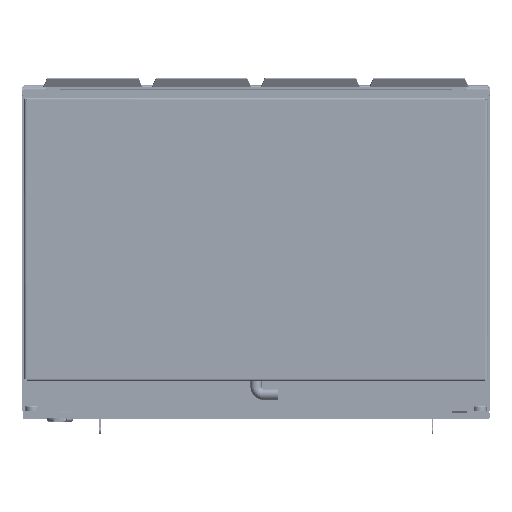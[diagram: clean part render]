
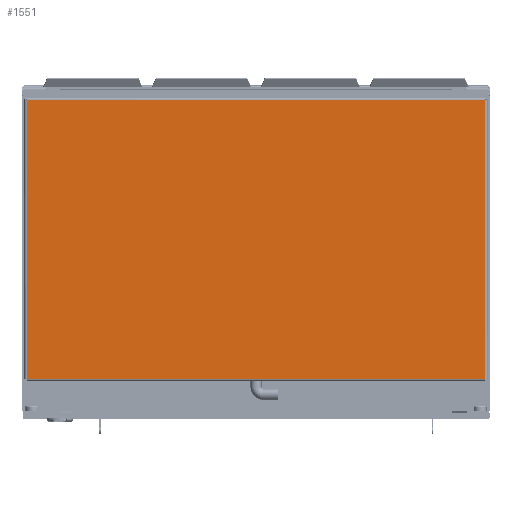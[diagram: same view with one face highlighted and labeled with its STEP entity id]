
A CAD part, front view. The second image highlights one B-rep face of the part: STEP entity #1551.
In plain terms, the highlighted planar face has unit normal (0, -1, 0).
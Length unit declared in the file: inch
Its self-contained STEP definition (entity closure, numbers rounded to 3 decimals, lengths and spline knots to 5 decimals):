
#52=DIRECTION('',(-1.,0.,0.));
#53=VECTOR('',#52,15.4375);
#54=CARTESIAN_POINT('',(7.71875,-0.05,4.68875));
#55=LINE('',#54,#53);
#68=CARTESIAN_POINT('',(-7.71875,-0.05,4.68875));
#76=DIRECTION('',(0.,0.,-1.));
#77=VECTOR('',#76,9.3775);
#78=CARTESIAN_POINT('',(-7.71875,-0.05,4.68875));
#79=LINE('',#78,#77);
#300=DIRECTION('',(1.,0.,0.));
#301=VECTOR('',#300,15.4374);
#302=CARTESIAN_POINT('',(-7.71875,-0.05,-4.68875));
#303=LINE('',#302,#301);
#331=CARTESIAN_POINT('',(7.71875,-0.05,4.68875));
#342=DIRECTION('',(0.,0.,1.));
#343=VECTOR('',#342,9.3775);
#344=CARTESIAN_POINT('',(7.71865,-0.05001,-4.68875));
#345=LINE('',#344,#343);
#886=VERTEX_POINT('',#331);
#887=CARTESIAN_POINT('',(7.71875,-0.05,-4.68875));
#888=VERTEX_POINT('',#887);
#893=VERTEX_POINT('',#68);
#894=CARTESIAN_POINT('',(-7.71875,-0.05,-4.68875));
#895=VERTEX_POINT('',#894);
#1539=CARTESIAN_POINT('',(0.,-0.05,0.));
#1540=DIRECTION('',(0.,1.,0.));
#1541=DIRECTION('',(1.,0.,0.));
#1542=AXIS2_PLACEMENT_3D('',#1539,#1540,#1541);
#1543=PLANE('',#1542);
#1544=ORIENTED_EDGE('',*,*,#1225,.F.);
#1545=ORIENTED_EDGE('',*,*,#1126,.F.);
#1547=ORIENTED_EDGE('',*,*,#1546,.F.);
#1548=ORIENTED_EDGE('',*,*,#1481,.F.);
#1549=EDGE_LOOP('',(#1544,#1545,#1547,#1548));
#1550=FACE_OUTER_BOUND('',#1549,.F.);
#1551=ADVANCED_FACE('',(#1550),#1543,.F.);
#1126=EDGE_CURVE('',#886,#893,#55,.T.);
#1225=EDGE_CURVE('',#893,#895,#79,.T.);
#1481=EDGE_CURVE('',#895,#888,#303,.T.);
#1546=EDGE_CURVE('',#888,#886,#345,.T.);
